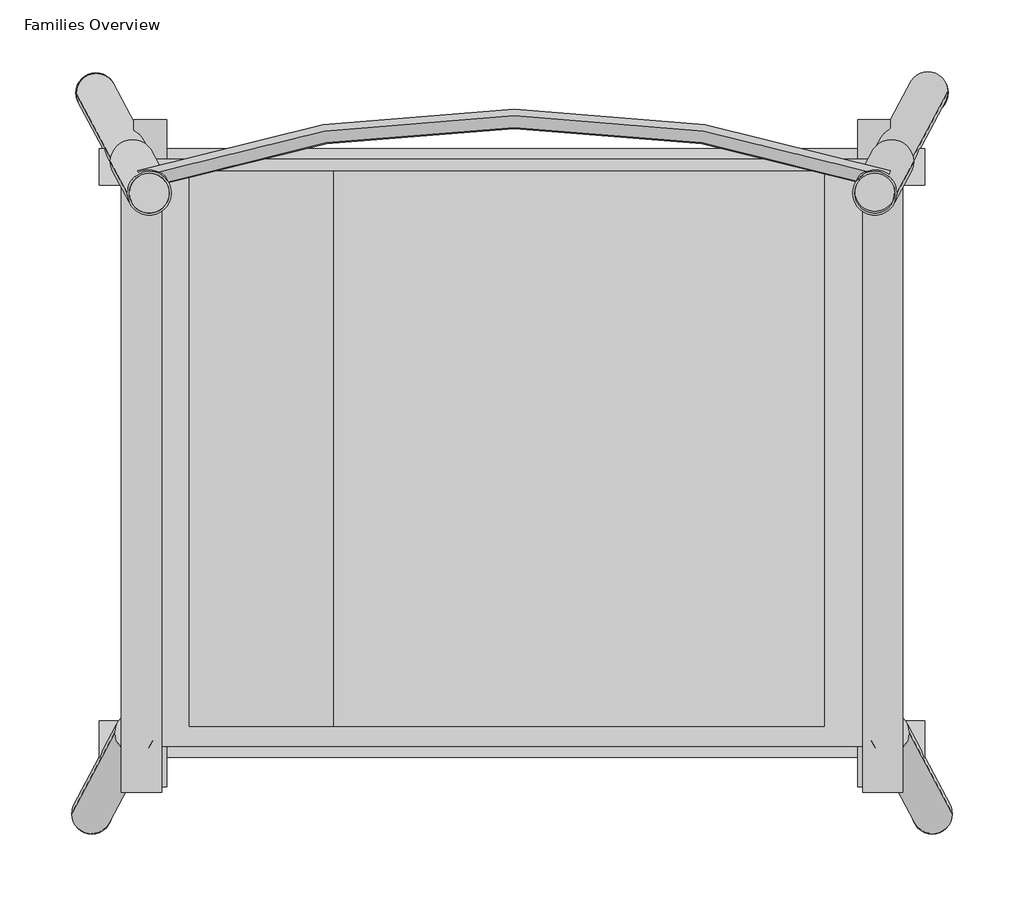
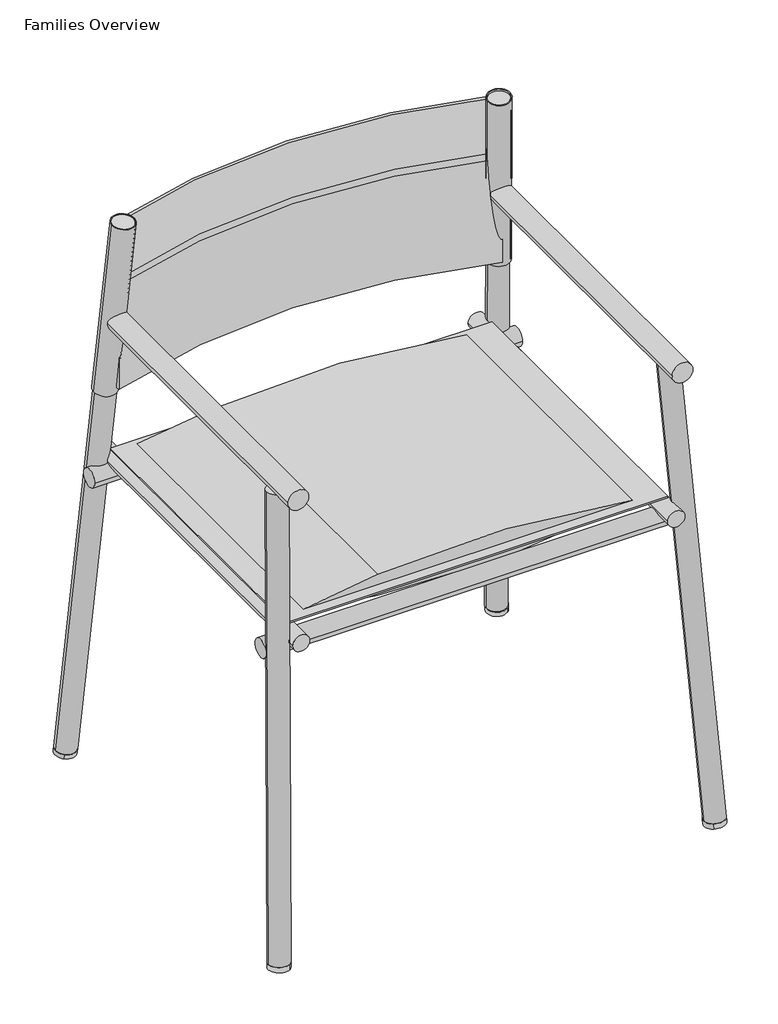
# One storey, incomplete: 1 furniture element.
"""IFC4 building model written with IfcOpenShell, lengths in millimetres."""

from ifc_helpers import new_model, si_unit, origin, place, context, project, spatial, transform, mapped, element, save
from components import arm_chair_66f9f921

model = new_model("IFC4")

# Units and contexts
model_context = context("Model", 3, world=origin())
ifc_project = project(units=[si_unit("LENGTHUNIT", "METRE", prefix="MILLI")], contexts=[model_context])

# Site, building, storey
site = spatial("IfcSite", under=ifc_project)
building = spatial("IfcBuilding", under=site)
storey = spatial("IfcBuildingStorey", under=building, Name="Families Overview", Elevation=0.0)

# Furniture
placement = place(None, origin())
arm_chair_shape = arm_chair_66f9f921(model_context)
element("IfcFurniture", 1, ObjectType="EMU_Seating_Outdoor_Terramare_ArmChair : Arm Chair", at=placement, inside=storey, context=model_context, shape_type="MappedRepresentation", body=[
    mapped(arm_chair_shape, transform((143118.627932, -67107.8304792, 0.0), x_axis=(1.0, 0.0, 0.0), y_axis=(0.0, 1.0, 0.0), z_axis=(0.0, 0.0, 1.0))),
])

save(model, "model.ifc")
